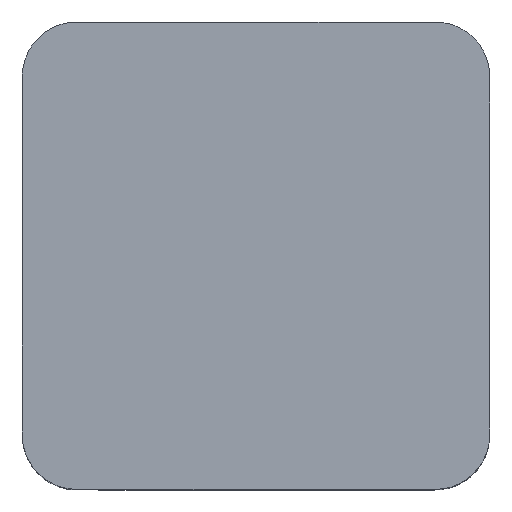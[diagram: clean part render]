
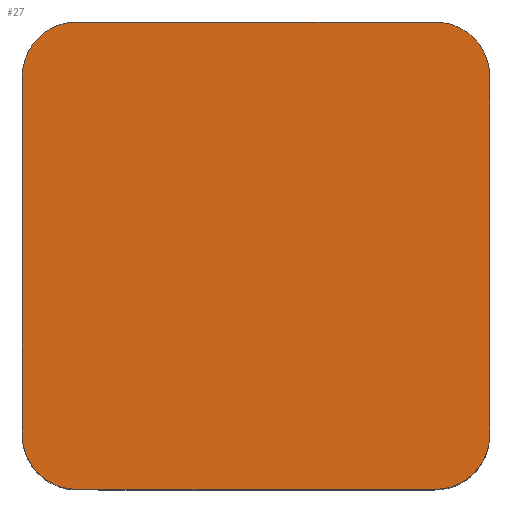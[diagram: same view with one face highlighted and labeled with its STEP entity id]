
A CAD part, top view. The second image highlights one B-rep face of the part: STEP entity #27.
In plain terms, the highlighted planar face has unit normal (0, 0, 1).
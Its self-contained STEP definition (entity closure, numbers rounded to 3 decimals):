
#27=ADVANCED_FACE('',(#34),#188,.T.);
#34=FACE_OUTER_BOUND('',#41,.T.);
#41=EDGE_LOOP('',(#53,#54));
#53=ORIENTED_EDGE('',*,*,#156,.T.);
#54=ORIENTED_EDGE('',*,*,#157,.T.);
#77=PCURVE('',#188,#101);
#78=PCURVE('',#188,#102);
#79=PCURVE('',#191,#103);
#94=PCURVE('',#193,#118);
#101=DEFINITIONAL_REPRESENTATION('',(#169),#494);
#102=DEFINITIONAL_REPRESENTATION('',(#171),#494);
#103=DEFINITIONAL_REPRESENTATION('',(#125),#494);
#118=DEFINITIONAL_REPRESENTATION('',(#138),#494);
#125=B_SPLINE_CURVE_WITH_KNOTS('',1,(#414,#415),.UNSPECIFIED.,.F.,.F.,(2,
2),(-163.416,-81.708),.UNSPECIFIED.);
#138=B_SPLINE_CURVE_WITH_KNOTS('',1,(#491,#492),.UNSPECIFIED.,.F.,.F.,(2,
2),(-81.708,0.),.UNSPECIFIED.);
#144=SURFACE_CURVE('',#168,(#77,#79),.PCURVE_S1.);
#145=SURFACE_CURVE('',#170,(#78,#94),.PCURVE_S1.);
#156=EDGE_CURVE('',#181,#185,#144,.T.);
#157=EDGE_CURVE('',#185,#181,#145,.T.);
#168=(
BOUNDED_CURVE()
B_SPLINE_CURVE(2,(#378,#379,#380,#381,#382,#383,#384,#385,#386),
 .UNSPECIFIED.,.F.,.F.)
B_SPLINE_CURVE_WITH_KNOTS((3,2,2,2,3),(-163.416,-130.416,
-122.562,-89.562,-81.708),.UNSPECIFIED.)
CURVE()
GEOMETRIC_REPRESENTATION_ITEM()
RATIONAL_B_SPLINE_CURVE((1.,1.,1.,0.707,1.,1.,1.,0.707,
1.))
REPRESENTATION_ITEM('')
);
#169=(
BOUNDED_CURVE()
B_SPLINE_CURVE(2,(#387,#388,#389,#390,#391,#392,#393,#394,#395),
 .UNSPECIFIED.,.F.,.F.)
B_SPLINE_CURVE_WITH_KNOTS((3,2,2,2,3),(-163.416,-130.416,
-122.562,-89.562,-81.708),.UNSPECIFIED.)
CURVE()
GEOMETRIC_REPRESENTATION_ITEM()
RATIONAL_B_SPLINE_CURVE((1.,1.,1.,0.707,1.,1.,1.,0.707,
1.))
REPRESENTATION_ITEM('')
);
#170=(
BOUNDED_CURVE()
B_SPLINE_CURVE(2,(#396,#397,#398,#399,#400,#401,#402,#403,#404),
 .UNSPECIFIED.,.F.,.F.)
B_SPLINE_CURVE_WITH_KNOTS((3,2,2,2,3),(-81.708,-48.708,
-40.854,-7.854,0.),.UNSPECIFIED.)
CURVE()
GEOMETRIC_REPRESENTATION_ITEM()
RATIONAL_B_SPLINE_CURVE((1.,1.,1.,0.707,1.,1.,1.,0.707,
1.))
REPRESENTATION_ITEM('')
);
#171=(
BOUNDED_CURVE()
B_SPLINE_CURVE(2,(#405,#406,#407,#408,#409,#410,#411,#412,#413),
 .UNSPECIFIED.,.F.,.F.)
B_SPLINE_CURVE_WITH_KNOTS((3,2,2,2,3),(-81.708,-48.708,
-40.854,-7.854,0.),.UNSPECIFIED.)
CURVE()
GEOMETRIC_REPRESENTATION_ITEM()
RATIONAL_B_SPLINE_CURVE((1.,1.,1.,0.707,1.,1.,1.,0.707,
1.))
REPRESENTATION_ITEM('')
);
#181=VERTEX_POINT('',#335);
#185=VERTEX_POINT('',#339);
#188=PLANE('',#215);
#191=(
BOUNDED_SURFACE()
B_SPLINE_SURFACE(1,2,((#246,#247,#248,#249,#250,#251,#252,#253,#254,#255,
#256,#257,#258,#259,#260,#261,#262),(#263,#264,#265,#266,#267,#268,#269,
#270,#271,#272,#273,#274,#275,#276,#277,#278,#279)),.UNSPECIFIED.,.F.,.F.,
 .F.)
B_SPLINE_SURFACE_WITH_KNOTS((2,2),(3,2,2,2,2,2,2,2,3),(0.,34.),(-163.416,
-130.416,-122.562,-89.562,-81.708,
-48.708,-40.854,-7.854,0.),.UNSPECIFIED.)
GEOMETRIC_REPRESENTATION_ITEM()
RATIONAL_B_SPLINE_SURFACE(((1.,1.,1.,0.707,1.,1.,1.,0.707,
1.,1.,1.,0.707,1.,1.,1.,0.707,1.),(1.,1.,1.,0.707,
1.,1.,1.,0.707,1.,1.,1.,0.707,1.,1.,1.,0.707,
1.)))
REPRESENTATION_ITEM('')
SURFACE()
);
#193=(
BOUNDED_SURFACE()
B_SPLINE_SURFACE(1,2,((#299,#300,#301,#302,#303,#304,#305,#306,#307,#308,
#309,#310,#311,#312,#313,#314,#315),(#316,#317,#318,#319,#320,#321,#322,
#323,#324,#325,#326,#327,#328,#329,#330,#331,#332)),.UNSPECIFIED.,.F.,.F.,
 .F.)
B_SPLINE_SURFACE_WITH_KNOTS((2,2),(3,2,2,2,2,2,2,2,3),(0.,34.),(-163.416,
-130.416,-122.562,-89.562,-81.708,
-48.708,-40.854,-7.854,0.),.UNSPECIFIED.)
GEOMETRIC_REPRESENTATION_ITEM()
RATIONAL_B_SPLINE_SURFACE(((1.,1.,1.,0.707,1.,1.,1.,0.707,
1.,1.,1.,0.707,1.,1.,1.,0.707,1.),(1.,1.,1.,0.707,
1.,1.,1.,0.707,1.,1.,1.,0.707,1.,1.,1.,0.707,
1.)))
REPRESENTATION_ITEM('')
SURFACE()
);
#215=AXIS2_PLACEMENT_3D('',#245,#221,$);
#221=DIRECTION('',(0.,0.,1.));
#245=CARTESIAN_POINT('',(731.,69.5,58.));
#246=CARTESIAN_POINT('',(731.,74.5,58.));
#247=CARTESIAN_POINT('',(731.,91.,58.));
#248=CARTESIAN_POINT('',(731.,107.5,58.));
#249=CARTESIAN_POINT('',(731.,112.5,58.));
#250=CARTESIAN_POINT('',(726.,112.5,58.));
#251=CARTESIAN_POINT('',(709.5,112.5,58.));
#252=CARTESIAN_POINT('',(693.,112.5,58.));
#253=CARTESIAN_POINT('',(688.,112.5,58.));
#254=CARTESIAN_POINT('',(688.,107.5,58.));
#255=CARTESIAN_POINT('',(688.,91.,58.));
#256=CARTESIAN_POINT('',(688.,74.5,58.));
#257=CARTESIAN_POINT('',(688.,69.5,58.));
#258=CARTESIAN_POINT('',(693.,69.5,58.));
#259=CARTESIAN_POINT('',(709.5,69.5,58.));
#260=CARTESIAN_POINT('',(726.,69.5,58.));
#261=CARTESIAN_POINT('',(731.,69.5,58.));
#262=CARTESIAN_POINT('',(731.,74.5,58.));
#263=CARTESIAN_POINT('',(731.,74.5,24.));
#264=CARTESIAN_POINT('',(731.,91.,24.));
#265=CARTESIAN_POINT('',(731.,107.5,24.));
#266=CARTESIAN_POINT('',(731.,112.5,24.));
#267=CARTESIAN_POINT('',(726.,112.5,24.));
#268=CARTESIAN_POINT('',(709.5,112.5,24.));
#269=CARTESIAN_POINT('',(693.,112.5,24.));
#270=CARTESIAN_POINT('',(688.,112.5,24.));
#271=CARTESIAN_POINT('',(688.,107.5,24.));
#272=CARTESIAN_POINT('',(688.,91.,24.));
#273=CARTESIAN_POINT('',(688.,74.5,24.));
#274=CARTESIAN_POINT('',(688.,69.5,24.));
#275=CARTESIAN_POINT('',(693.,69.5,24.));
#276=CARTESIAN_POINT('',(709.5,69.5,24.));
#277=CARTESIAN_POINT('',(726.,69.5,24.));
#278=CARTESIAN_POINT('',(731.,69.5,24.));
#279=CARTESIAN_POINT('',(731.,74.5,24.));
#299=CARTESIAN_POINT('',(731.,74.5,58.));
#300=CARTESIAN_POINT('',(731.,91.,58.));
#301=CARTESIAN_POINT('',(731.,107.5,58.));
#302=CARTESIAN_POINT('',(731.,112.5,58.));
#303=CARTESIAN_POINT('',(726.,112.5,58.));
#304=CARTESIAN_POINT('',(709.5,112.5,58.));
#305=CARTESIAN_POINT('',(693.,112.5,58.));
#306=CARTESIAN_POINT('',(688.,112.5,58.));
#307=CARTESIAN_POINT('',(688.,107.5,58.));
#308=CARTESIAN_POINT('',(688.,91.,58.));
#309=CARTESIAN_POINT('',(688.,74.5,58.));
#310=CARTESIAN_POINT('',(688.,69.5,58.));
#311=CARTESIAN_POINT('',(693.,69.5,58.));
#312=CARTESIAN_POINT('',(709.5,69.5,58.));
#313=CARTESIAN_POINT('',(726.,69.5,58.));
#314=CARTESIAN_POINT('',(731.,69.5,58.));
#315=CARTESIAN_POINT('',(731.,74.5,58.));
#316=CARTESIAN_POINT('',(731.,74.5,24.));
#317=CARTESIAN_POINT('',(731.,91.,24.));
#318=CARTESIAN_POINT('',(731.,107.5,24.));
#319=CARTESIAN_POINT('',(731.,112.5,24.));
#320=CARTESIAN_POINT('',(726.,112.5,24.));
#321=CARTESIAN_POINT('',(709.5,112.5,24.));
#322=CARTESIAN_POINT('',(693.,112.5,24.));
#323=CARTESIAN_POINT('',(688.,112.5,24.));
#324=CARTESIAN_POINT('',(688.,107.5,24.));
#325=CARTESIAN_POINT('',(688.,91.,24.));
#326=CARTESIAN_POINT('',(688.,74.5,24.));
#327=CARTESIAN_POINT('',(688.,69.5,24.));
#328=CARTESIAN_POINT('',(693.,69.5,24.));
#329=CARTESIAN_POINT('',(709.5,69.5,24.));
#330=CARTESIAN_POINT('',(726.,69.5,24.));
#331=CARTESIAN_POINT('',(731.,69.5,24.));
#332=CARTESIAN_POINT('',(731.,74.5,24.));
#335=CARTESIAN_POINT('',(731.,74.5,58.));
#339=CARTESIAN_POINT('',(688.,107.5,58.));
#378=CARTESIAN_POINT('',(731.,74.5,58.));
#379=CARTESIAN_POINT('',(731.,91.,58.));
#380=CARTESIAN_POINT('',(731.,107.5,58.));
#381=CARTESIAN_POINT('',(731.,112.5,58.));
#382=CARTESIAN_POINT('',(726.,112.5,58.));
#383=CARTESIAN_POINT('',(709.5,112.5,58.));
#384=CARTESIAN_POINT('',(693.,112.5,58.));
#385=CARTESIAN_POINT('',(688.,112.5,58.));
#386=CARTESIAN_POINT('',(688.,107.5,58.));
#387=CARTESIAN_POINT('',(0.,0.));
#388=CARTESIAN_POINT('',(16.5,0.));
#389=CARTESIAN_POINT('',(33.,0.));
#390=CARTESIAN_POINT('',(38.,0.));
#391=CARTESIAN_POINT('',(38.,5.));
#392=CARTESIAN_POINT('',(38.,21.5));
#393=CARTESIAN_POINT('',(38.,38.));
#394=CARTESIAN_POINT('',(38.,43.));
#395=CARTESIAN_POINT('',(33.,43.));
#396=CARTESIAN_POINT('',(688.,107.5,58.));
#397=CARTESIAN_POINT('',(688.,91.,58.));
#398=CARTESIAN_POINT('',(688.,74.5,58.));
#399=CARTESIAN_POINT('',(688.,69.5,58.));
#400=CARTESIAN_POINT('',(693.,69.5,58.));
#401=CARTESIAN_POINT('',(709.5,69.5,58.));
#402=CARTESIAN_POINT('',(726.,69.5,58.));
#403=CARTESIAN_POINT('',(731.,69.5,58.));
#404=CARTESIAN_POINT('',(731.,74.5,58.));
#405=CARTESIAN_POINT('',(33.,43.));
#406=CARTESIAN_POINT('',(16.5,43.));
#407=CARTESIAN_POINT('',(0.,43.));
#408=CARTESIAN_POINT('',(-5.,43.));
#409=CARTESIAN_POINT('',(-5.,38.));
#410=CARTESIAN_POINT('',(-5.,21.5));
#411=CARTESIAN_POINT('',(-5.,5.));
#412=CARTESIAN_POINT('',(-5.,0.));
#413=CARTESIAN_POINT('',(0.,0.));
#414=CARTESIAN_POINT('',(0.,-163.416));
#415=CARTESIAN_POINT('',(0.,-81.708));
#491=CARTESIAN_POINT('',(0.,-81.708));
#492=CARTESIAN_POINT('',(0.,0.));
#494=(
GEOMETRIC_REPRESENTATION_CONTEXT(2)
PARAMETRIC_REPRESENTATION_CONTEXT()
REPRESENTATION_CONTEXT('pspace','')
);
